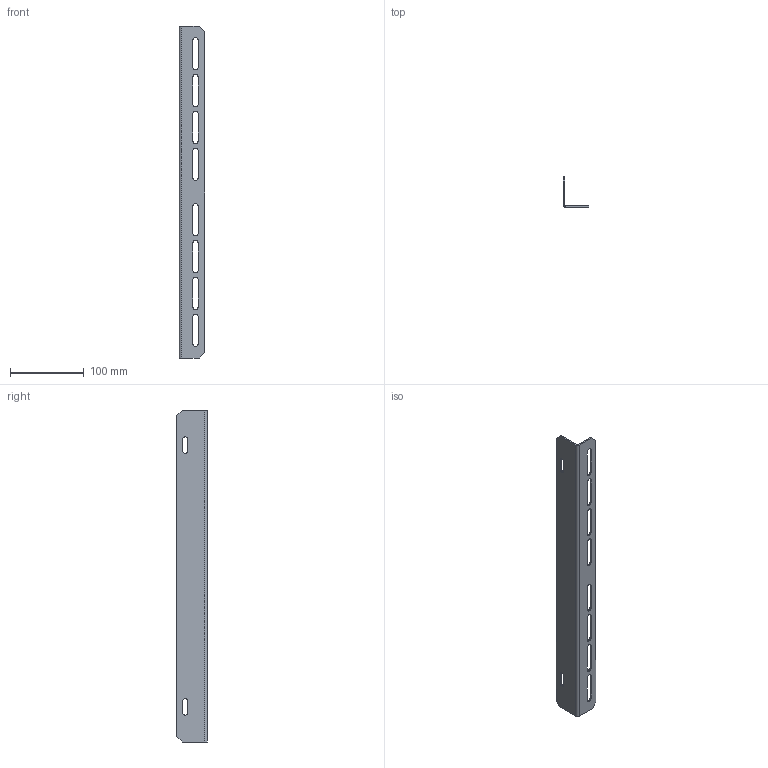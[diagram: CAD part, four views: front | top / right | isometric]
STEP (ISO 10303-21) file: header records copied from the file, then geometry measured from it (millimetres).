
FILE_DESCRIPTION (( 'STEP AP203' ), '1' );
FILE_NAME ('MG 45.03 IL Ðåéêà îïîðíàÿ.STEP', '2017-11-19T06:59:21', ( 'user' ), ( '' ), 'SwSTEP 2.0', 'SolidWorks 2012', '' );
FILE_SCHEMA (( 'CONFIG_CONTROL_DESIGN' ));
Length unit declared in the file: millimetre
Products named in the file (1): MG 45.03 IL Ðåéêà îïîðíàÿ
Bounding box: 35 x 41.5 x 450 mm (x, y, z)
Volume: 60507.2 mm3; surface area: 64308.2 mm2
Topology: 1 solids, 1 shells, 58 faces, 160 edges, 104 vertices
Faces by surface type: plane 36, cylinder 22
Entity records: 1961 total; most frequent: CARTESIAN_POINT 323, DIRECTION 322, ORIENTED_EDGE 320, EDGE_CURVE 160, LINE 116, VECTOR 116, VERTEX_POINT 104, AXIS2_PLACEMENT_3D 103
